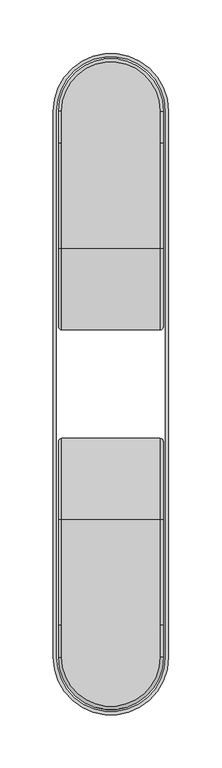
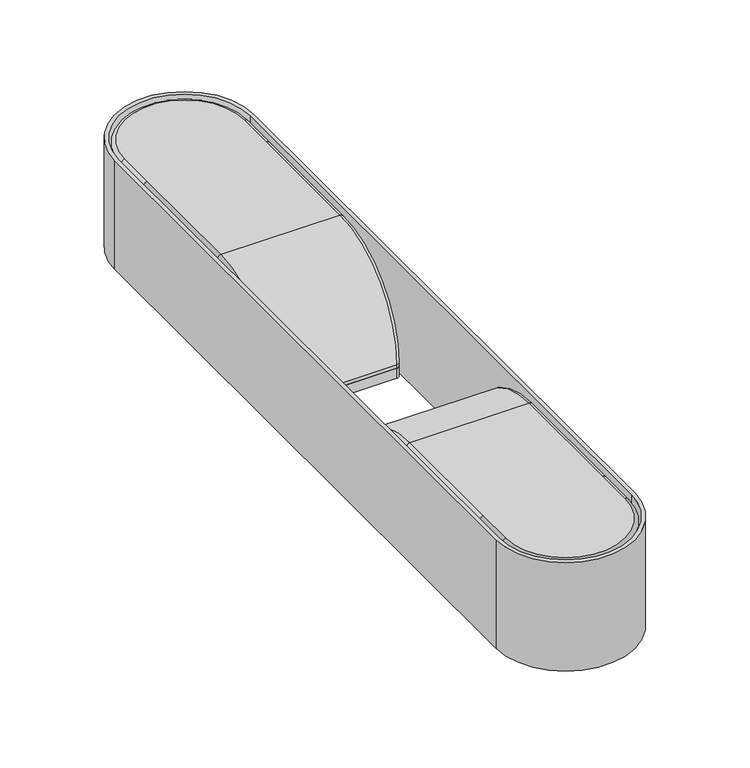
"""IFC4 building model written with IfcOpenShell, lengths in millimetres: light fixture geometry, Boyd_Lighting-Loop-Double_Sconce : Boyd_Lighting-Loop-Double_Sconce."""

from ifc_helpers import new_model, si_unit, point, frame, frame_2d, origin, origin_with_axes, place, context, project, spatial, polyline, circle_curve, ellipse_curve, trimmed, segment, composite_curve, outline, extrude, source, transform, mapped, element, save
from ifc_brep_helpers import plane_surface, cylinder_surface, revolved_surface, advanced_brep


def light_fixture_add33a23(model_context):
    return source(origin(), model_context, "Body", "SolidModel", [
        extrude(outline(composite_curve([segment(polyline([(49.2125, 255.5380216), (49.2125, 53.975)]), True, "CONTINUOUS"), segment(trimmed(circle_curve(frame_2d((46.0375, 53.975)), 3.175), [point((49.2125, 53.975))], [point((46.0375, 50.8))], False, "CARTESIAN"), True, "CONTINUOUS"), segment(polyline([(46.0375, 50.8), (-46.0375, 50.8)]), True, "CONTINUOUS"), segment(trimmed(circle_curve(frame_2d((-46.0375, 53.975)), 3.175), [point((-46.0375, 50.8))], [point((-49.2125, 53.975))], False, "CARTESIAN"), True, "CONTINUOUS"), segment(polyline([(-49.2125, 53.975), (-49.2125, 255.5380216)]), True, "CONTINUOUS"), segment(trimmed(circle_curve(frame_2d((0.0, 255.5380216)), 49.2125), [point((-49.2125, 255.5380216))], [point((49.2125, 255.5380216))], False, "CARTESIAN"), True, "CONTINUOUS")], self_intersect=False)), origin_with_axes(), (0.0, 0.0, 1.0), 8.0899),
        extrude(outline(composite_curve([segment(trimmed(circle_curve(frame_2d((0.0, -255.5380216)), 49.2125), [point((49.2125, -255.5380216))], [point((-49.2125, -255.5380216))], False, "CARTESIAN"), True, "CONTINUOUS"), segment(polyline([(-49.2125, -255.5380216), (-49.2125, -53.975)]), True, "CONTINUOUS"), segment(trimmed(circle_curve(frame_2d((-46.0375, -53.975)), 3.175), [point((-49.2125, -53.975))], [point((-46.0375, -50.8))], False, "CARTESIAN"), True, "CONTINUOUS"), segment(polyline([(-46.0375, -50.8), (46.0375, -50.8)]), True, "CONTINUOUS"), segment(trimmed(circle_curve(frame_2d((46.0375, -53.975)), 3.175), [point((46.0375, -50.8))], [point((49.2125, -53.975))], False, "CARTESIAN"), True, "CONTINUOUS"), segment(polyline([(49.2125, -53.975), (49.2125, -255.5380216)]), True, "CONTINUOUS")], self_intersect=False)), origin_with_axes(), (0.0, 0.0, 1.0), 8.0899),
        advanced_brep(
        [(46.0375, -225.3263207, 87.4649), (46.0375, -127.0, 87.4649), (-46.0375, -127.0, 87.4649), (-46.0375, -225.3263207, 87.4649), (-46.0375, -255.5380216, 87.4649), (46.0375, -255.5380216, 87.4649), (49.2125, -225.3263207, 84.2899), (49.2125, -127.0, 84.2899), (49.2125, -255.5380216, 84.2899), (49.2125, -255.5380216, 8.0899), (49.2125, -53.975, 8.0899), (49.2125, -53.975, 11.2649), (-49.2125, -225.3263207, 84.2899), (-49.2125, -127.0, 84.2899), (-49.2125, -53.975, 11.2649), (-49.2125, -53.975, 8.0899), (-49.2125, -255.5380216, 8.0899), (-49.2125, -255.5380216, 84.2899), (46.0375, -50.8, 11.2649), (-46.0375, -50.8, 11.2649), (-46.0375, -50.8, 8.0899), (46.0375, -50.8, 8.0899)],
        [
            (0, 1),
            (1, 2),
            (2, 3),
            (3, 4),
            (4, 5, circle_curve(frame((0.0, -255.5380216, 87.4649), z_axis=(0.0, 0.0, 1.0), x_axis=(-1.0, 0.0, 0.0)), 46.0375)),
            (5, 0),
            (0, 6, circle_curve(frame((46.0375, -225.3263207, 84.2899), z_axis=(0.0, 1.0, 0.0), x_axis=(0.0, 0.0, 1.0)), 3.175)),
            (6, 7),
            (7, 1, circle_curve(frame((46.0375, -127.0, 84.2899), z_axis=(0.0, -1.0, 0.0), x_axis=(0.0, 0.0, 1.0)), 3.175)),
            (6, 8),
            (8, 9),
            (9, 10),
            (10, 11),
            (11, 7, circle_curve(frame((49.2125, -127.0, 11.2649), z_axis=(1.0, 0.0, 0.0), x_axis=(0.0, 0.0, 1.0)), 73.025)),
            (12, 13),
            (13, 14, circle_curve(frame((-49.2125, -127.0, 11.2649), z_axis=(-1.0, 0.0, 0.0), x_axis=(0.0, 0.0, 1.0)), 73.025)),
            (14, 15),
            (15, 16),
            (16, 17),
            (17, 12),
            (2, 13, circle_curve(frame((-46.0375, -127.0, 84.2899), z_axis=(0.0, -1.0, 0.0), x_axis=(0.0, 0.0, 1.0)), 3.175)),
            (12, 3, circle_curve(frame((-46.0375, -225.3263207, 84.2899), z_axis=(0.0, 1.0, 0.0), x_axis=(0.0, 0.0, 1.0)), 3.175)),
            (1, 18, circle_curve(frame((46.0375, -127.0, 11.2649), z_axis=(-1.0, 0.0, 0.0), x_axis=(0.0, 0.0, 1.0)), 76.2)),
            (18, 19),
            (19, 2, circle_curve(frame((-46.0375, -127.0, 11.2649), z_axis=(1.0, 0.0, 0.0), x_axis=(0.0, 0.0, 1.0)), 76.2)),
            (11, 18, circle_curve(frame((46.0375, -53.975, 11.2649), z_axis=(0.0, 0.0, 1.0), x_axis=(0.0, 1.0, 0.0)), 3.175)),
            (19, 14, circle_curve(frame((-46.0375, -53.975, 11.2649), z_axis=(0.0, 0.0, 1.0), x_axis=(0.0, 1.0, 0.0)), 3.175)),
            (9, 16, circle_curve(frame((0.0, -255.5380216, 8.0899), z_axis=(0.0, 0.0, -1.0), x_axis=(-1.0, 0.0, 0.0)), 49.2125)),
            (15, 20, circle_curve(frame((-46.0375, -53.975, 8.0899), z_axis=(0.0, 0.0, -1.0), x_axis=(0.0, 1.0, 0.0)), 3.175)),
            (20, 21),
            (21, 10, circle_curve(frame((46.0375, -53.975, 8.0899), z_axis=(0.0, 0.0, -1.0), x_axis=(0.0, 1.0, 0.0)), 3.175)),
            (18, 21),
            (20, 19),
            (17, 4, circle_curve(frame((-46.0375, -255.5380216, 84.2899), z_axis=(0.0, 1.0, 0.0), x_axis=(1.0, 0.0, 0.0)), 3.175)),
            (8, 17, circle_curve(frame((0.0, -255.5380216, 84.2899), z_axis=(0.0, 0.0, -1.0), x_axis=(-1.0, 0.0, 0.0)), 49.2125)),
            (8, 5, circle_curve(frame((46.0375, -255.5380216, 84.2899), z_axis=(0.0, -1.0, 0.0), x_axis=(-1.0, 0.0, 0.0)), 3.175)),
        ],
        [
            plane_surface(frame((46.0375, -225.3263207, 87.4649), z_axis=(0.0, 0.0, 1.0), x_axis=(0.0, 1.0, 0.0))),
            cylinder_surface(frame((46.0375, -225.3263207, 84.2899), z_axis=(0.0, -1.0, 0.0), x_axis=(0.0, 0.0, 1.0)), 3.175),
            plane_surface(frame((49.2125, -225.3263207, 82.7024), z_axis=(1.0, 0.0, 0.0), x_axis=(0.0, 1.0, 0.0))),
            plane_surface(frame((-49.2125, -225.3263207, 84.2899), z_axis=(-1.0, 0.0, 0.0), x_axis=(0.0, 1.0, 0.0))),
            cylinder_surface(frame((-46.0375, -225.3263207, 84.2899), z_axis=(0.0, -1.0, 0.0), x_axis=(0.0, 0.0, 1.0)), 3.175),
            cylinder_surface(frame((0.0, -127.0, 11.2649), z_axis=(-1.0, 0.0, 0.0), x_axis=(0.0, 0.0, 1.0)), 76.2),
            revolved_surface(trimmed(ellipse_curve(frame((46.0375, -127.0, 84.2899), z_axis=(0.0, -1.0, 0.0), x_axis=(0.0, 0.0, 1.0)), 3.175, 3.175), [point((49.2125, -127.0, 84.2899))], [point((46.0375, -127.0, 87.4649))], True, "CARTESIAN"), (0.0, -127.0, 11.2649), (-1.0, 0.0, 0.0)),
            revolved_surface(trimmed(ellipse_curve(frame((-46.0375, -127.0, 84.2899), z_axis=(0.0, -1.0, 0.0), x_axis=(0.0, 0.0, 1.0)), 3.175, 3.175), [point((-46.0375, -127.0, 87.4649))], [point((-49.2125, -127.0, 84.2899))], True, "CARTESIAN"), (0.0, -127.0, 11.2649), (-1.0, 0.0, 0.0)),
            plane_surface(frame((0.0, -50.8, 8.0899), z_axis=(0.0, 0.0, -1.0), x_axis=(1.0, 0.0, 0.0))),
            plane_surface(frame((46.0375, -50.8, 11.2649), z_axis=(0.0, 1.0, 0.0), x_axis=(0.0, 0.0, -1.0))),
            cylinder_surface(frame((46.0375, -53.975, 11.2649), z_axis=(0.0, 0.0, 1.0), x_axis=(0.0, 1.0, 0.0)), 3.175),
            cylinder_surface(frame((-46.0375, -53.975, 11.2649), z_axis=(0.0, 0.0, 1.0), x_axis=(0.0, 1.0, 0.0)), 3.175),
            cylinder_surface(frame((-46.0375, -225.3263207, 84.2899), z_axis=(0.0, 1.0, 0.0), x_axis=(1.0, 0.0, 0.0)), 3.175),
            cylinder_surface(frame((0.0, -255.5380216, 0.0), z_axis=(0.0, 0.0, 1.0), x_axis=(-1.0, 0.0, 0.0)), 49.2125),
            revolved_surface(trimmed(ellipse_curve(frame((-46.0375, -255.5380216, 84.2899), z_axis=(0.0, 1.0, 0.0), x_axis=(1.0, 0.0, 0.0)), 3.175, 3.175), [point((-49.2125, -255.5380216, 84.2899))], [point((-46.0375, -255.5380216, 87.4649))], True, "CARTESIAN"), (0.0, -255.5380216, 0.0), (0.0, 0.0, 1.0)),
            cylinder_surface(frame((46.0375, -255.5380216, 84.2899), z_axis=(0.0, -1.0, 0.0), x_axis=(-1.0, 0.0, 0.0)), 3.175),
        ],
        [
            (0, [[1, 2, 3, 4, 5, 6]]),
            (1, [[-1, 7, 8, 9]]),
            (2, [[-8, 10, 11, 12, 13, 14]]),
            (3, [[15, 16, 17, 18, 19, 20]]),
            (4, [[-3, 21, -15, 22]]),
            (5, [[-2, 23, 24, 25]]),
            (6, [[-9, -14, 26, -23]]),
            (7, [[-16, -21, -25, 27]]),
            (8, [[-12, 28, -18, 29, 30, 31]]),
            (9, [[-24, 32, -30, 33]]),
            (10, [[-13, -31, -32, -26]]),
            (11, [[-17, -27, -33, -29]]),
            (12, [[-20, 34, -4, -22]]),
            (13, [[-19, -28, -11, 35]]),
            (14, [[-5, -34, -35, 36]]),
            (15, [[-6, -36, -10, -7]]),
        ],
    ),
        advanced_brep(
        [(-46.0375, 225.3263207, 87.4649), (-46.0375, 127.0, 87.4649), (46.0375, 127.0, 87.4649), (46.0375, 225.3263207, 87.4649), (46.0375, 255.5380216, 87.4649), (-46.0375, 255.5380216, 87.4649), (49.2125, 127.0, 84.2899), (49.2125, 225.3263207, 84.2899), (49.2125, 53.975, 11.2649), (49.2125, 53.975, 8.0899), (49.2125, 255.5380216, 8.0899), (49.2125, 255.5380216, 84.2899), (-49.2125, 53.975, 8.0899), (-49.2125, 53.975, 11.2649), (-49.2125, 127.0, 84.2899), (-49.2125, 225.3263207, 84.2899), (-49.2125, 255.5380216, 84.2899), (-49.2125, 255.5380216, 8.0899), (-46.0375, 50.8, 11.2649), (46.0375, 50.8, 11.2649), (-46.0375, 50.8, 8.0899), (46.0375, 50.8, 8.0899)],
        [
            (0, 1),
            (1, 2),
            (2, 3),
            (3, 4),
            (4, 5, circle_curve(frame((0.0, 255.5380216, 87.4649), z_axis=(0.0, 0.0, 1.0), x_axis=(-1.0, 0.0, 0.0)), 46.0375)),
            (5, 0),
            (2, 6, circle_curve(frame((46.0375, 127.0, 84.2899), z_axis=(0.0, 1.0, 0.0), x_axis=(0.0, 0.0, -1.0)), 3.175)),
            (6, 7),
            (7, 3, circle_curve(frame((46.0375, 225.3263207, 84.2899), z_axis=(0.0, -1.0, 0.0), x_axis=(0.0, 0.0, -1.0)), 3.175)),
            (6, 8, circle_curve(frame((49.2125, 127.0, 11.2649), z_axis=(1.0, 0.0, 0.0), x_axis=(0.0, 0.0, 1.0)), 73.025)),
            (8, 9),
            (9, 10),
            (10, 11),
            (11, 7),
            (12, 13),
            (13, 14, circle_curve(frame((-49.2125, 127.0, 11.2649), z_axis=(-1.0, 0.0, 0.0), x_axis=(0.0, 0.0, 1.0)), 73.025)),
            (14, 15),
            (15, 16),
            (16, 17),
            (17, 12),
            (0, 15, circle_curve(frame((-46.0375, 225.3263207, 84.2899), z_axis=(0.0, -1.0, 0.0), x_axis=(0.0, 0.0, -1.0)), 3.175)),
            (14, 1, circle_curve(frame((-46.0375, 127.0, 84.2899), z_axis=(0.0, 1.0, 0.0), x_axis=(0.0, 0.0, -1.0)), 3.175)),
            (1, 18, circle_curve(frame((-46.0375, 127.0, 11.2649), z_axis=(1.0, 0.0, 0.0), x_axis=(0.0, 0.0, 1.0)), 76.2)),
            (18, 19),
            (19, 2, circle_curve(frame((46.0375, 127.0, 11.2649), z_axis=(-1.0, 0.0, 0.0), x_axis=(0.0, 0.0, 1.0)), 76.2)),
            (19, 8, circle_curve(frame((46.0375, 53.975, 11.2649), z_axis=(0.0, 0.0, 1.0), x_axis=(0.0, 1.0, 0.0)), 3.175)),
            (13, 18, circle_curve(frame((-46.0375, 53.975, 11.2649), z_axis=(0.0, 0.0, 1.0), x_axis=(0.0, 1.0, 0.0)), 3.175)),
            (20, 12, circle_curve(frame((-46.0375, 53.975, 8.0899), z_axis=(0.0, 0.0, -1.0), x_axis=(0.0, 1.0, 0.0)), 3.175)),
            (17, 10, circle_curve(frame((0.0, 255.5380216, 8.0899), z_axis=(0.0, 0.0, -1.0), x_axis=(-1.0, 0.0, 0.0)), 49.2125)),
            (9, 21, circle_curve(frame((46.0375, 53.975, 8.0899), z_axis=(0.0, 0.0, -1.0), x_axis=(0.0, 1.0, 0.0)), 3.175)),
            (21, 20),
            (18, 20),
            (21, 19),
            (5, 16, circle_curve(frame((-46.0375, 255.5380216, 84.2899), z_axis=(0.0, -1.0, 0.0), x_axis=(-1.0, 0.0, 0.0)), 3.175)),
            (16, 11, circle_curve(frame((0.0, 255.5380216, 84.2899), z_axis=(0.0, 0.0, -1.0), x_axis=(-1.0, 0.0, 0.0)), 49.2125)),
            (4, 11, circle_curve(frame((46.0375, 255.5380216, 84.2899), z_axis=(0.0, 1.0, 0.0), x_axis=(1.0, 0.0, 0.0)), 3.175)),
        ],
        [
            plane_surface(frame((-46.0375, 225.3263207, 87.4649), z_axis=(0.0, 0.0, 1.0), x_axis=(0.0, -1.0, 0.0))),
            cylinder_surface(frame((46.0375, 225.3263207, 84.2899), z_axis=(0.0, 1.0, 0.0), x_axis=(0.0, 0.0, -1.0)), 3.175),
            plane_surface(frame((49.2125, 225.3263207, 84.2899), z_axis=(1.0, 0.0, 0.0), x_axis=(0.0, -1.0, 0.0))),
            plane_surface(frame((-49.2125, 225.3263207, 82.7024), z_axis=(-1.0, 0.0, 0.0), x_axis=(0.0, -1.0, 0.0))),
            cylinder_surface(frame((-46.0375, 225.3263207, 84.2899), z_axis=(0.0, 1.0, 0.0), x_axis=(0.0, 0.0, -1.0)), 3.175),
            cylinder_surface(frame((0.0, 127.0, 11.2649), z_axis=(1.0, 0.0, 0.0), x_axis=(0.0, 0.0, 1.0)), 76.2),
            revolved_surface(trimmed(ellipse_curve(frame((46.0375, 127.0, 84.2899), z_axis=(0.0, 1.0, 0.0), x_axis=(0.0, 0.0, -1.0)), 3.175, 3.175), [point((46.0375, 127.0, 87.4649))], [point((49.2125, 127.0, 84.2899))], True, "CARTESIAN"), (0.0, 127.0, 11.2649), (1.0, 0.0, 0.0)),
            revolved_surface(trimmed(ellipse_curve(frame((-46.0375, 127.0, 84.2899), z_axis=(0.0, 1.0, 0.0), x_axis=(0.0, 0.0, -1.0)), 3.175, 3.175), [point((-49.2125, 127.0, 84.2899))], [point((-46.0375, 127.0, 87.4649))], True, "CARTESIAN"), (0.0, 127.0, 11.2649), (1.0, 0.0, 0.0)),
            plane_surface(frame((0.0, 50.8, 8.0899), z_axis=(0.0, 0.0, -1.0), x_axis=(1.0, 0.0, 0.0))),
            plane_surface(frame((-46.0375, 50.8, 11.2649), z_axis=(0.0, -1.0, 0.0), x_axis=(0.0, 0.0, -1.0))),
            cylinder_surface(frame((46.0375, 53.975, 11.2649), z_axis=(0.0, 0.0, 1.0), x_axis=(0.0, 1.0, 0.0)), 3.175),
            cylinder_surface(frame((-46.0375, 53.975, 11.2649), z_axis=(0.0, 0.0, 1.0), x_axis=(0.0, 1.0, 0.0)), 3.175),
            cylinder_surface(frame((-46.0375, 225.3263207, 84.2899), z_axis=(0.0, -1.0, 0.0), x_axis=(-1.0, 0.0, 0.0)), 3.175),
            cylinder_surface(frame((0.0, 255.5380216, 0.0), z_axis=(0.0, 0.0, -1.0), x_axis=(-1.0, 0.0, 0.0)), 49.2125),
            revolved_surface(trimmed(ellipse_curve(frame((-46.0375, 255.5380216, 84.2899), z_axis=(0.0, -1.0, 0.0), x_axis=(-1.0, 0.0, 0.0)), 3.175, 3.175), [point((-46.0375, 255.5380216, 87.4649))], [point((-49.2125, 255.5380216, 84.2899))], True, "CARTESIAN"), (0.0, 255.5380216, 0.0), (0.0, 0.0, -1.0)),
            cylinder_surface(frame((46.0375, 255.5380216, 84.2899), z_axis=(0.0, 1.0, 0.0), x_axis=(1.0, 0.0, 0.0)), 3.175),
        ],
        [
            (0, [[1, 2, 3, 4, 5, 6]]),
            (1, [[-3, 7, 8, 9]]),
            (2, [[-8, 10, 11, 12, 13, 14]]),
            (3, [[15, 16, 17, 18, 19, 20]]),
            (4, [[-1, 21, -17, 22]]),
            (5, [[-2, 23, 24, 25]]),
            (6, [[-7, -25, 26, -10]]),
            (7, [[-16, 27, -23, -22]]),
            (8, [[28, -20, 29, -12, 30, 31]]),
            (9, [[-24, 32, -31, 33]]),
            (10, [[-11, -26, -33, -30]]),
            (11, [[-15, -28, -32, -27]]),
            (12, [[-18, -21, -6, 34]]),
            (13, [[-19, 35, -13, -29]]),
            (14, [[-5, 36, -35, -34]]),
            (15, [[-4, -9, -14, -36]]),
        ],
    ),
        extrude(outline(composite_curve([segment(trimmed(circle_curve(frame_2d((0.0, 255.5378906)), 53.975), [point((-53.975, 255.5378906))], [point((53.975, 255.5378906))], False, "CARTESIAN"), True, "CONTINUOUS"), segment(polyline([(53.975, 255.5378906), (53.975, -255.5378906)]), True, "CONTINUOUS"), segment(trimmed(circle_curve(frame_2d((0.0, -255.5378906)), 53.975), [point((53.975, -255.5378906))], [point((-53.975, -255.5378906))], False, "CARTESIAN"), True, "CONTINUOUS"), segment(polyline([(-53.975, -255.5378906), (-53.975, 255.5378906)]), True, "CONTINUOUS")], self_intersect=False), holes=[composite_curve([segment(polyline([(-50.8, 255.5378906), (-50.8, -255.5378906)]), True, "CONTINUOUS"), segment(trimmed(circle_curve(frame_2d((0.0, -255.5378906)), 50.8), [point((-50.8, -255.5378906))], [point((50.8, -255.5378906))], True, "CARTESIAN"), True, "CONTINUOUS"), segment(polyline([(50.8, -255.5378906), (50.8, 255.5378906)]), True, "CONTINUOUS"), segment(trimmed(circle_curve(frame_2d((0.0, 255.5378906)), 50.8), [point((50.8, 255.5378906))], [point((-50.8, 255.5378906))], True, "CARTESIAN"), True, "CONTINUOUS")], self_intersect=False)]), origin_with_axes(), (0.0, 0.0, 1.0), 88.9),
        extrude(outline(composite_curve([segment(trimmed(circle_curve(frame_2d((0.0, -188.9133829)), 1.3890625), [point((-1.3890625, -188.9133829))], [point((1.3890625, -188.9133829))], False, "CARTESIAN"), True, "CONTINUOUS"), segment(trimmed(circle_curve(frame_2d((0.0, -188.9133829)), 1.3890625), [point((1.3890625, -188.9133829))], [point((-1.3890625, -188.9133829))], False, "CARTESIAN"), True, "CONTINUOUS")], self_intersect=False)), frame((0.0, 0.0, -4.4233209), z_axis=(0.0, 0.0, 1.0), x_axis=(1.0, 0.0, 0.0)), (0.0, 0.0, 1.0), 4.4233209),
    ])


if __name__ == "__main__":
    model = new_model("IFC4")
    model_context = context("Model", 3, world=origin())
    ifc_project = project(units=[si_unit("LENGTHUNIT", "METRE", prefix="MILLI")], contexts=[model_context])
    site = spatial("IfcSite", under=ifc_project)
    building = spatial("IfcBuilding", under=site)
    placement = place(None, origin())
    light_fixture_shape = light_fixture_add33a23(model_context)
    element("IfcLightFixture", 1, ObjectType="Boyd_Lighting-Loop-Double_Sconce : Boyd_Lighting-Loop-Double_Sconce", at=placement, inside=building, context=model_context, shape_type="MappedRepresentation", body=[
        mapped(light_fixture_shape, transform((0.0, 0.0, 0.0), x_axis=(1.0, 0.0, 0.0), y_axis=(0.0, 1.0, 0.0), z_axis=(0.0, 0.0, 1.0))),
    ])
    save(model, "model.ifc")
